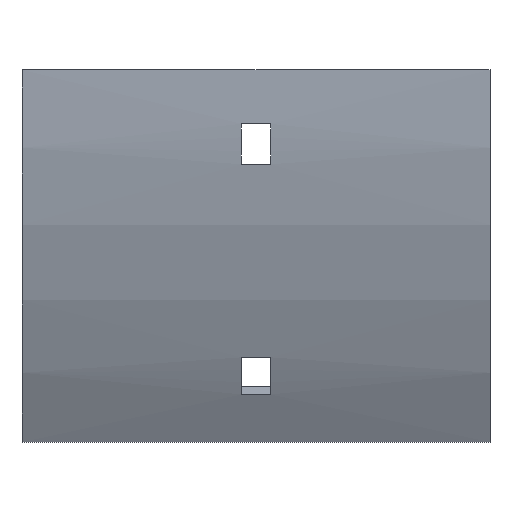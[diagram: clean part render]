
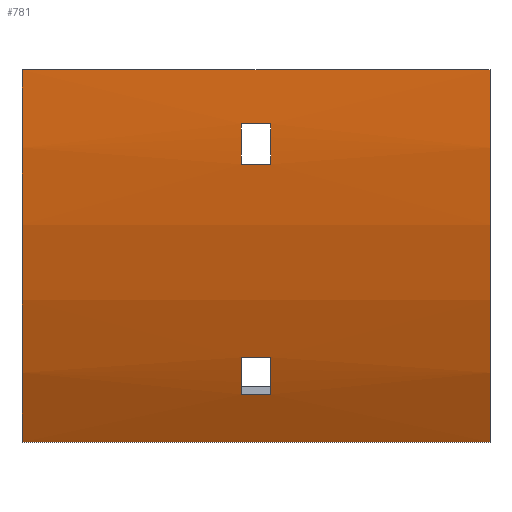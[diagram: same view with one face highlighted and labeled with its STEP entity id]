
A CAD part, front view. The second image highlights one B-rep face of the part: STEP entity #781.
In plain terms, the highlighted cylindrical face has radius 165.5 mm (diameter 331 mm), a partial arc.
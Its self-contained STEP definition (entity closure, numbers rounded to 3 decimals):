
#9 = ORIENTED_EDGE ( 'NONE', *, *, #876, .F. ) ;
#19 = CARTESIAN_POINT ( 'NONE',  ( 3.25, 100., 0. ) ) ;
#33 = CARTESIAN_POINT ( 'NONE',  ( 52., -43.327, -82.75 ) ) ;
#36 = DIRECTION ( 'NONE',  ( 1., 0., 0. ) ) ;
#51 = CARTESIAN_POINT ( 'NONE',  ( 3.25, -64.162, -21. ) ) ;
#62 = DIRECTION ( 'NONE',  ( 0., 0., 1. ) ) ;
#63 = CIRCLE ( 'NONE', #714, 165.5 ) ;
#87 = EDGE_CURVE ( 'NONE', #141, #926, #605, .T. ) ;
#109 = LINE ( 'NONE', #1015, #1088 ) ;
#124 = AXIS2_PLACEMENT_3D ( 'NONE', #1101, #217, #637 ) ;
#127 = ORIENTED_EDGE ( 'NONE', *, *, #420, .T. ) ;
#135 = CARTESIAN_POINT ( 'NONE',  ( 52., -64.162, -21. ) ) ;
#141 = VERTEX_POINT ( 'NONE', #224 ) ;
#143 = ORIENTED_EDGE ( 'NONE', *, *, #459, .F. ) ;
#147 = DIRECTION ( 'NONE',  ( 1., 0., 0. ) ) ;
#154 = EDGE_CURVE ( 'NONE', #1031, #141, #1059, .T. ) ;
#170 = CARTESIAN_POINT ( 'NONE',  ( -52., 100., 0. ) ) ;
#182 = DIRECTION ( 'NONE',  ( 0., 0., -1. ) ) ;
#215 = EDGE_CURVE ( 'NONE', #1109, #225, #63, .T. ) ;
#217 = DIRECTION ( 'NONE',  ( 1., 0., 0. ) ) ;
#224 = CARTESIAN_POINT ( 'NONE',  ( -3.25, -65.064, -12. ) ) ;
#225 = VERTEX_POINT ( 'NONE', #365 ) ;
#234 = CARTESIAN_POINT ( 'NONE',  ( -3.25, 100., 0. ) ) ;
#238 = CARTESIAN_POINT ( 'NONE',  ( 52., 100., 0. ) ) ;
#247 = CARTESIAN_POINT ( 'NONE',  ( 52., -43.327, -82.75 ) ) ;
#267 = VECTOR ( 'NONE', #147, 1000. ) ;
#278 = DIRECTION ( 'NONE',  ( 1., 0., 0. ) ) ;
#283 = LINE ( 'NONE', #980, #1097 ) ;
#307 = ORIENTED_EDGE ( 'NONE', *, *, #1111, .T. ) ;
#330 = VERTEX_POINT ( 'NONE', #33 ) ;
#339 = AXIS2_PLACEMENT_3D ( 'NONE', #852, #36, #403 ) ;
#365 = CARTESIAN_POINT ( 'NONE',  ( -52., -43.327, -82.75 ) ) ;
#384 = CARTESIAN_POINT ( 'NONE',  ( 3.25, -65.064, -12. ) ) ;
#387 = CARTESIAN_POINT ( 'NONE',  ( 52., -65.5, 0. ) ) ;
#394 = AXIS2_PLACEMENT_3D ( 'NONE', #238, #1143, #62 ) ;
#401 = DIRECTION ( 'NONE',  ( -1., 0., 0. ) ) ;
#402 = EDGE_LOOP ( 'NONE', ( #930, #797, #143, #307 ) ) ;
#403 = DIRECTION ( 'NONE',  ( 0., 0., -1. ) ) ;
#408 = EDGE_CURVE ( 'NONE', #926, #1040, #635, .T. ) ;
#418 = LINE ( 'NONE', #247, #687 ) ;
#420 = EDGE_CURVE ( 'NONE', #1040, #1031, #944, .T. ) ;
#422 = EDGE_LOOP ( 'NONE', ( #9, #978, #592, #937 ) ) ;
#426 = EDGE_CURVE ( 'NONE', #745, #437, #732, .T. ) ;
#437 = VERTEX_POINT ( 'NONE', #998 ) ;
#456 = EDGE_CURVE ( 'NONE', #1151, #801, #283, .T. ) ;
#459 = EDGE_CURVE ( 'NONE', #643, #330, #1017, .T. ) ;
#477 = DIRECTION ( 'NONE',  ( -1., 0., 0. ) ) ;
#500 = DIRECTION ( 'NONE',  ( 0., 0., 1. ) ) ;
#511 = FACE_OUTER_BOUND ( 'NONE', #402, .T. ) ;
#526 = DIRECTION ( 'NONE',  ( 0., 0., -1. ) ) ;
#531 = CARTESIAN_POINT ( 'NONE',  ( 52., -65.064, -12. ) ) ;
#538 = VECTOR ( 'NONE', #914, 1000. ) ;
#544 = CARTESIAN_POINT ( 'NONE',  ( 3.25, -52.669, -63.895 ) ) ;
#548 = CIRCLE ( 'NONE', #668, 165.5 ) ;
#581 = EDGE_CURVE ( 'NONE', #437, #1151, #548, .T. ) ;
#591 = DIRECTION ( 'NONE',  ( -1., 0., 0. ) ) ;
#592 = ORIENTED_EDGE ( 'NONE', *, *, #581, .F. ) ;
#602 = DIRECTION ( 'NONE',  ( -1., 0., 0. ) ) ;
#605 = LINE ( 'NONE', #531, #267 ) ;
#635 = CIRCLE ( 'NONE', #124, 165.5 ) ;
#637 = DIRECTION ( 'NONE',  ( 0., 0., -1. ) ) ;
#640 = CARTESIAN_POINT ( 'NONE',  ( 52., 100., 0. ) ) ;
#643 = VERTEX_POINT ( 'NONE', #387 ) ;
#653 = DIRECTION ( 'NONE',  ( 0., 0., 1. ) ) ;
#662 = CARTESIAN_POINT ( 'NONE',  ( -52., -65.5, 0. ) ) ;
#668 = AXIS2_PLACEMENT_3D ( 'NONE', #19, #401, #653 ) ;
#679 = ORIENTED_EDGE ( 'NONE', *, *, #87, .T. ) ;
#687 = VECTOR ( 'NONE', #602, 1000. ) ;
#689 = CYLINDRICAL_SURFACE ( 'NONE', #394, 165.5 ) ;
#698 = CARTESIAN_POINT ( 'NONE',  ( -3.25, -52.669, -63.895 ) ) ;
#714 = AXIS2_PLACEMENT_3D ( 'NONE', #170, #805, #526 ) ;
#724 = DIRECTION ( 'NONE',  ( 1., 0., 0. ) ) ;
#732 = LINE ( 'NONE', #742, #848 ) ;
#739 = AXIS2_PLACEMENT_3D ( 'NONE', #234, #591, #500 ) ;
#742 = CARTESIAN_POINT ( 'NONE',  ( 52., -48.95, -72.14 ) ) ;
#745 = VERTEX_POINT ( 'NONE', #833 ) ;
#779 = CARTESIAN_POINT ( 'NONE',  ( -3.25, -64.162, -21. ) ) ;
#781 = ADVANCED_FACE ( 'NONE', ( #511, #873, #1138 ), #689, .T. ) ;
#797 = ORIENTED_EDGE ( 'NONE', *, *, #829, .F. ) ;
#801 = VERTEX_POINT ( 'NONE', #698 ) ;
#805 = DIRECTION ( 'NONE',  ( 1., 0., 0. ) ) ;
#807 = AXIS2_PLACEMENT_3D ( 'NONE', #640, #724, #182 ) ;
#817 = DIRECTION ( 'NONE',  ( -1., 0., 0. ) ) ;
#829 = EDGE_CURVE ( 'NONE', #330, #225, #418, .T. ) ;
#833 = CARTESIAN_POINT ( 'NONE',  ( -3.25, -48.95, -72.14 ) ) ;
#843 = CIRCLE ( 'NONE', #339, 165.5 ) ;
#848 = VECTOR ( 'NONE', #278, 1000. ) ;
#852 = CARTESIAN_POINT ( 'NONE',  ( -3.25, 100., 0. ) ) ;
#872 = ORIENTED_EDGE ( 'NONE', *, *, #408, .T. ) ;
#873 = FACE_BOUND ( 'NONE', #1058, .T. ) ;
#876 = EDGE_CURVE ( 'NONE', #801, #745, #843, .T. ) ;
#914 = DIRECTION ( 'NONE',  ( -1., 0., 0. ) ) ;
#926 = VERTEX_POINT ( 'NONE', #384 ) ;
#930 = ORIENTED_EDGE ( 'NONE', *, *, #215, .T. ) ;
#937 = ORIENTED_EDGE ( 'NONE', *, *, #426, .F. ) ;
#944 = LINE ( 'NONE', #135, #538 ) ;
#978 = ORIENTED_EDGE ( 'NONE', *, *, #456, .F. ) ;
#980 = CARTESIAN_POINT ( 'NONE',  ( 52., -52.669, -63.895 ) ) ;
#998 = CARTESIAN_POINT ( 'NONE',  ( 3.25, -48.95, -72.14 ) ) ;
#1015 = CARTESIAN_POINT ( 'NONE',  ( 52., -65.5, 0. ) ) ;
#1017 = CIRCLE ( 'NONE', #807, 165.5 ) ;
#1031 = VERTEX_POINT ( 'NONE', #779 ) ;
#1040 = VERTEX_POINT ( 'NONE', #51 ) ;
#1058 = EDGE_LOOP ( 'NONE', ( #127, #1068, #679, #872 ) ) ;
#1059 = CIRCLE ( 'NONE', #739, 165.5 ) ;
#1068 = ORIENTED_EDGE ( 'NONE', *, *, #154, .T. ) ;
#1088 = VECTOR ( 'NONE', #477, 1000. ) ;
#1097 = VECTOR ( 'NONE', #817, 1000. ) ;
#1101 = CARTESIAN_POINT ( 'NONE',  ( 3.25, 100., 0. ) ) ;
#1109 = VERTEX_POINT ( 'NONE', #662 ) ;
#1111 = EDGE_CURVE ( 'NONE', #643, #1109, #109, .T. ) ;
#1138 = FACE_BOUND ( 'NONE', #422, .T. ) ;
#1143 = DIRECTION ( 'NONE',  ( -1., 0., 0. ) ) ;
#1151 = VERTEX_POINT ( 'NONE', #544 ) ;
